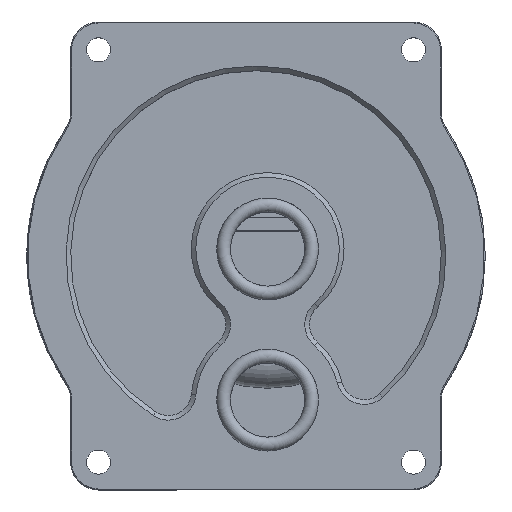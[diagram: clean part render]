
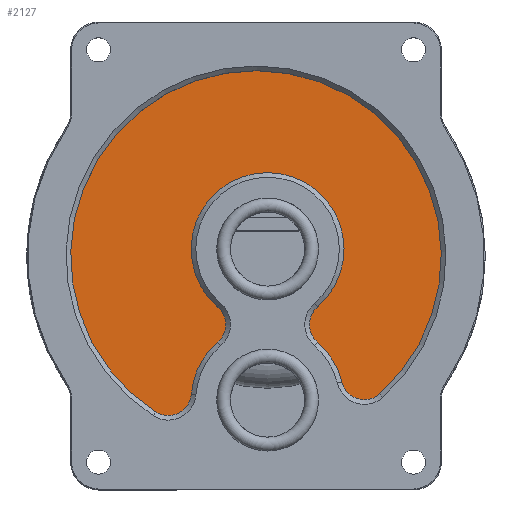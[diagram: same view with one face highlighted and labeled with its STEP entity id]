
A CAD part, top view. The second image highlights one B-rep face of the part: STEP entity #2127.
In plain terms, the highlighted planar face has unit normal (0, 0, 1).
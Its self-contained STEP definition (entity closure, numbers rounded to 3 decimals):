
#233 = VERTEX_POINT ( 'NONE', #6345 ) ;
#356 = DIRECTION ( 'NONE',  ( 0., 0., 1. ) ) ;
#367 = DIRECTION ( 'NONE',  ( 0., 0., -1. ) ) ;
#407 = CARTESIAN_POINT ( 'NONE',  ( -2.5, 31.108, 7. ) ) ;
#475 = CIRCLE ( 'NONE', #1581, 40. ) ;
#1006 = DIRECTION ( 'NONE',  ( 0., 0., -1. ) ) ;
#1051 = ORIENTED_EDGE ( 'NONE', *, *, #2653, .T. ) ;
#1140 = CARTESIAN_POINT ( 'NONE',  ( 21.639, 33.641, 7. ) ) ;
#1151 = ORIENTED_EDGE ( 'NONE', *, *, #1847, .T. ) ;
#1166 = VERTEX_POINT ( 'NONE', #1140 ) ;
#1572 = CARTESIAN_POINT ( 'NONE',  ( -13.256, 18.595, 7. ) ) ;
#1581 = AXIS2_PLACEMENT_3D ( 'NONE', #10153, #7244, #6273 ) ;
#1754 = AXIS2_PLACEMENT_3D ( 'NONE', #407, #367, #8084 ) ;
#1807 = AXIS2_PLACEMENT_3D ( 'NONE', #3764, #8514, #5705 ) ;
#1847 = EDGE_CURVE ( 'NONE', #9826, #4888, #5168, .T. ) ;
#1858 = DIRECTION ( 'NONE',  ( 1., 0., 0. ) ) ;
#2127 = ADVANCED_FACE ( 'NONE', ( #2302 ), #3903, .T. ) ;
#2302 = FACE_OUTER_BOUND ( 'NONE', #4671, .T. ) ;
#2653 = EDGE_CURVE ( 'NONE', #11695, #9826, #3172, .T. ) ;
#2749 = DIRECTION ( 'NONE',  ( 0., 0., 1. ) ) ;
#2759 = CARTESIAN_POINT ( 'NONE',  ( -23.393, 26.034, 7. ) ) ;
#3117 = CIRCLE ( 'NONE', #1807, 16.5 ) ;
#3172 = CIRCLE ( 'NONE', #4866, 5. ) ;
#3272 = CARTESIAN_POINT ( 'NONE',  ( -18.534, 27.214, 7. ) ) ;
#3358 = ORIENTED_EDGE ( 'NONE', *, *, #10844, .T. ) ;
#3764 = CARTESIAN_POINT ( 'NONE',  ( -2.5, 31.108, 7. ) ) ;
#3843 = CARTESIAN_POINT ( 'NONE',  ( -26.735, 29.753, 7. ) ) ;
#3903 = PLANE ( 'NONE',  #10964 ) ;
#4000 = ORIENTED_EDGE ( 'NONE', *, *, #7476, .T. ) ;
#4181 = AXIS2_PLACEMENT_3D ( 'NONE', #2759, #10603, #12411 ) ;
#4259 = CARTESIAN_POINT ( 'NONE',  ( 11.515, 14.804, 7. ) ) ;
#4352 = ORIENTED_EDGE ( 'NONE', *, *, #6921, .T. ) ;
#4671 = EDGE_LOOP ( 'NONE', ( #10446, #4000, #5265, #4352, #3358, #1051, #1151, #10404 ) ) ;
#4866 = AXIS2_PLACEMENT_3D ( 'NONE', #4259, #356, #5274 ) ;
#4887 = CARTESIAN_POINT ( 'NONE',  ( -1.25, 15.554, 7. ) ) ;
#4888 = VERTEX_POINT ( 'NONE', #8938 ) ;
#4989 = CIRCLE ( 'NONE', #4181, 5. ) ;
#5168 = CIRCLE ( 'NONE', #9483, 16.5 ) ;
#5265 = ORIENTED_EDGE ( 'NONE', *, *, #9637, .T. ) ;
#5274 = DIRECTION ( 'NONE',  ( 1., 0., 0. ) ) ;
#5509 = VERTEX_POINT ( 'NONE', #3272 ) ;
#5606 = CIRCLE ( 'NONE', #6366, 5. ) ;
#5705 = DIRECTION ( 'NONE',  ( 1., 0., 0. ) ) ;
#5721 = DIRECTION ( 'NONE',  ( 0., 0., 1. ) ) ;
#5738 = DIRECTION ( 'NONE',  ( 1., 0., 0. ) ) ;
#5833 = CARTESIAN_POINT ( 'NONE',  ( -2.5, -1.5, 7. ) ) ;
#6084 = CIRCLE ( 'NONE', #1754, 16.5 ) ;
#6273 = DIRECTION ( 'NONE',  ( 1., 0., 0. ) ) ;
#6345 = CARTESIAN_POINT ( 'NONE',  ( 13.95, 29.825, 7. ) ) ;
#6366 = AXIS2_PLACEMENT_3D ( 'NONE', #9614, #2749, #5738 ) ;
#6815 = DIRECTION ( 'NONE',  ( 0., 0., 1. ) ) ;
#6921 = EDGE_CURVE ( 'NONE', #1166, #233, #5606, .T. ) ;
#7244 = DIRECTION ( 'NONE',  ( 0., 0., 1. ) ) ;
#7476 = EDGE_CURVE ( 'NONE', #5509, #7520, #4989, .T. ) ;
#7520 = VERTEX_POINT ( 'NONE', #3843 ) ;
#8084 = DIRECTION ( 'NONE',  ( 1., 0., 0. ) ) ;
#8451 = CARTESIAN_POINT ( 'NONE',  ( 8.256, 18.596, 7. ) ) ;
#8514 = DIRECTION ( 'NONE',  ( 0., 0., -1. ) ) ;
#8761 = DIRECTION ( 'NONE',  ( 1., 0., 0. ) ) ;
#8938 = CARTESIAN_POINT ( 'NONE',  ( -13.256, 11.012, 7. ) ) ;
#9298 = EDGE_CURVE ( 'NONE', #12413, #5509, #3117, .T. ) ;
#9483 = AXIS2_PLACEMENT_3D ( 'NONE', #5833, #1006, #8761 ) ;
#9541 = CIRCLE ( 'NONE', #12523, 5. ) ;
#9614 = CARTESIAN_POINT ( 'NONE',  ( 18.935, 29.436, 7. ) ) ;
#9637 = EDGE_CURVE ( 'NONE', #7520, #1166, #475, .T. ) ;
#9779 = EDGE_CURVE ( 'NONE', #4888, #12413, #9541, .T. ) ;
#9826 = VERTEX_POINT ( 'NONE', #10441 ) ;
#10153 = CARTESIAN_POINT ( 'NONE',  ( 0., 0., 7. ) ) ;
#10404 = ORIENTED_EDGE ( 'NONE', *, *, #9779, .T. ) ;
#10441 = CARTESIAN_POINT ( 'NONE',  ( 8.256, 11.012, 7. ) ) ;
#10446 = ORIENTED_EDGE ( 'NONE', *, *, #9298, .T. ) ;
#10529 = CARTESIAN_POINT ( 'NONE',  ( -16.516, 14.804, 7. ) ) ;
#10603 = DIRECTION ( 'NONE',  ( 0., 0., 1. ) ) ;
#10844 = EDGE_CURVE ( 'NONE', #233, #11695, #6084, .T. ) ;
#10964 = AXIS2_PLACEMENT_3D ( 'NONE', #4887, #6815, #12478 ) ;
#11695 = VERTEX_POINT ( 'NONE', #8451 ) ;
#12411 = DIRECTION ( 'NONE',  ( 1., 0., 0. ) ) ;
#12413 = VERTEX_POINT ( 'NONE', #1572 ) ;
#12478 = DIRECTION ( 'NONE',  ( 1., 0., 0. ) ) ;
#12523 = AXIS2_PLACEMENT_3D ( 'NONE', #10529, #5721, #1858 ) ;
